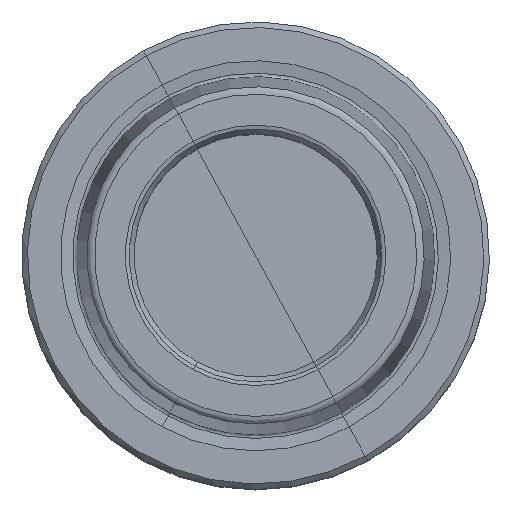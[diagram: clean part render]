
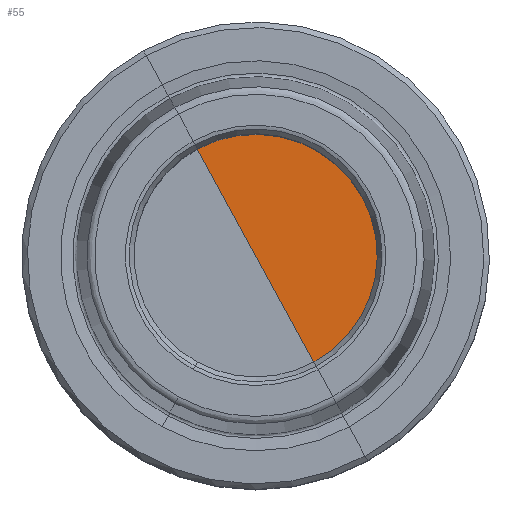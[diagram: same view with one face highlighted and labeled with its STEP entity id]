
A CAD part, top view. The second image highlights one B-rep face of the part: STEP entity #55.
In plain terms, the highlighted planar face has unit normal (0, 0, 1).
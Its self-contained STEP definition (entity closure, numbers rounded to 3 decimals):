
#35=AXIS2_PLACEMENT_3D('Plane Axis2P3D',#32,#33,#34) ;
#48=AXIS2_PLACEMENT_3D('Circle Axis2P3D',#46,#47,$) ;
#32=CARTESIAN_POINT('Axis2P3D Location',(0.,-11.8,-10.)) ;
#37=CARTESIAN_POINT('Line Origine',(0.,0.,-10.)) ;
#41=CARTESIAN_POINT('Vertex',(-6.233,11.409,-10.)) ;
#43=CARTESIAN_POINT('Vertex',(6.233,-11.409,-10.)) ;
#46=CARTESIAN_POINT('Axis2P3D Location',(0.,0.,-10.)) ;
#33=DIRECTION('Axis2P3D Direction',(0.,0.,-1.)) ;
#34=DIRECTION('Axis2P3D XDirection',(-1.,0.,0.)) ;
#38=DIRECTION('Vector Direction',(-0.479,0.878,0.)) ;
#47=DIRECTION('Axis2P3D Direction',(0.,0.,-1.)) ;
#39=VECTOR('Line Direction',#38,1.) ;
#52=ORIENTED_EDGE('',*,*,#45,.T.) ;
#53=ORIENTED_EDGE('',*,*,#50,.T.) ;
#55=ADVANCED_FACE('NOCUT',(#54),#36,.F.) ;
#49=CIRCLE('generated circle',#48,13.) ;
#45=EDGE_CURVE('',#42,#44,#40,.F.) ;
#50=EDGE_CURVE('',#44,#42,#49,.F.) ;
#51=EDGE_LOOP('',(#52,#53)) ;
#54=FACE_OUTER_BOUND('',#51,.T.) ;
#40=LINE('Line',#37,#39) ;
#36=PLANE('',#35) ;
#42=VERTEX_POINT('',#41) ;
#44=VERTEX_POINT('',#43) ;
